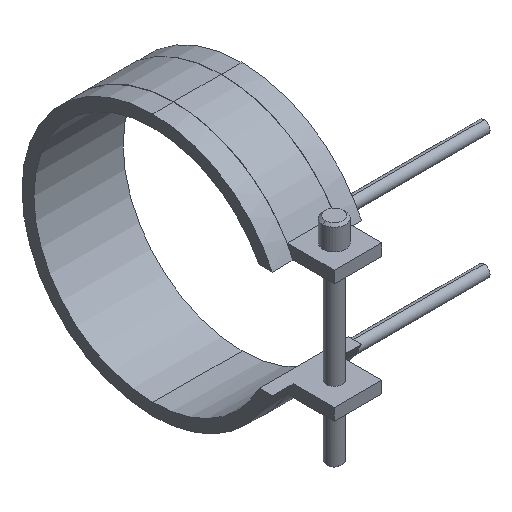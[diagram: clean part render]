
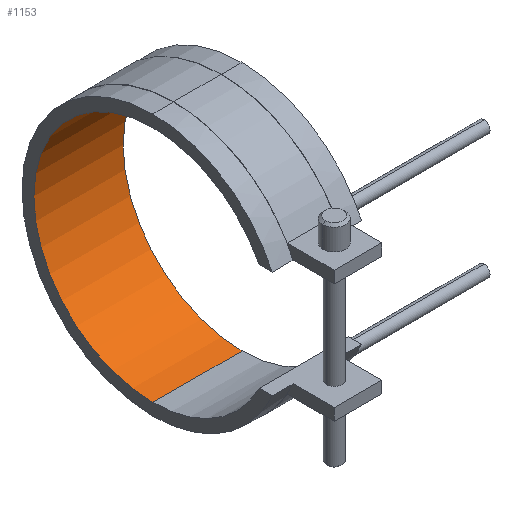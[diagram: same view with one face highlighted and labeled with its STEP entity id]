
A CAD part, isometric view. The second image highlights one B-rep face of the part: STEP entity #1153.
In plain terms, the highlighted cylindrical face has radius 40 mm (diameter 80 mm), a partial arc.
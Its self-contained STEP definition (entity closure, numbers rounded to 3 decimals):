
#834=CARTESIAN_POINT('Vertex',(-15.,0.,-40.)) ;
#841=CARTESIAN_POINT('Vertex',(15.,0.,-40.)) ;
#844=CARTESIAN_POINT('Line Origine',(15.,0.,-40.)) ;
#862=CARTESIAN_POINT('Axis2P3D Location',(-15.,0.,0.)) ;
#866=CARTESIAN_POINT('Vertex',(-15.,0.,40.)) ;
#923=CARTESIAN_POINT('Vertex',(15.,0.,40.)) ;
#933=CARTESIAN_POINT('Line Origine',(15.,0.,40.)) ;
#1024=CARTESIAN_POINT('Axis2P3D Location',(15.,0.,0.)) ;
#1142=CARTESIAN_POINT('Axis2P3D Location',(15.,0.,0.)) ;
#845=DIRECTION('Vector Direction',(1.,0.,0.)) ;
#863=DIRECTION('Axis2P3D Direction',(1.,0.,0.)) ;
#934=DIRECTION('Vector Direction',(1.,0.,0.)) ;
#1025=DIRECTION('Axis2P3D Direction',(1.,0.,0.)) ;
#1143=DIRECTION('Axis2P3D Direction',(1.,0.,-0.)) ;
#1144=DIRECTION('Axis2P3D XDirection',(0.,0.,-1.)) ;
#864=AXIS2_PLACEMENT_3D('Circle Axis2P3D',#862,#863,$) ;
#1026=AXIS2_PLACEMENT_3D('Circle Axis2P3D',#1024,#1025,$) ;
#1145=AXIS2_PLACEMENT_3D('Cylinder Axis2P3D',#1142,#1143,#1144) ;
#1148=ORIENTED_EDGE('',*,*,#1028,.T.) ;
#1149=ORIENTED_EDGE('',*,*,#937,.T.) ;
#1150=ORIENTED_EDGE('',*,*,#868,.F.) ;
#1151=ORIENTED_EDGE('',*,*,#848,.T.) ;
#846=VECTOR('Line Direction',#845,1.) ;
#935=VECTOR('Line Direction',#934,1.) ;
#1153=ADVANCED_FACE('14080030',(#1152),#1146,.F.) ;
#865=CIRCLE('generated circle',#864,40.) ;
#1027=CIRCLE('generated circle',#1026,40.) ;
#1146=CYLINDRICAL_SURFACE('generated cylinder',#1145,40.) ;
#848=EDGE_CURVE('',#835,#842,#847,.T.) ;
#868=EDGE_CURVE('',#835,#867,#865,.T.) ;
#937=EDGE_CURVE('',#924,#867,#936,.F.) ;
#1028=EDGE_CURVE('',#842,#924,#1027,.T.) ;
#1147=EDGE_LOOP('',(#1148,#1149,#1150,#1151)) ;
#1152=FACE_OUTER_BOUND('',#1147,.T.) ;
#847=LINE('Line',#844,#846) ;
#936=LINE('Line',#933,#935) ;
#835=VERTEX_POINT('',#834) ;
#842=VERTEX_POINT('',#841) ;
#867=VERTEX_POINT('',#866) ;
#924=VERTEX_POINT('',#923) ;
